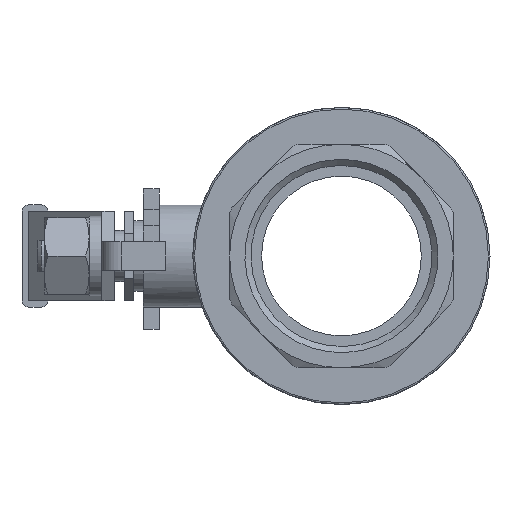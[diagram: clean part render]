
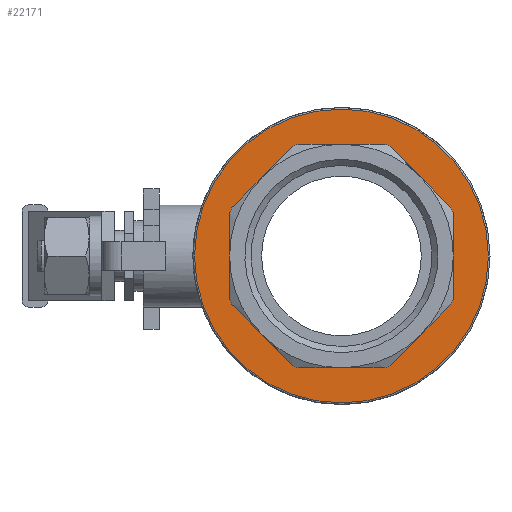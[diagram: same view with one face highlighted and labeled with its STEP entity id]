
A CAD part, left-side view. The second image highlights one B-rep face of the part: STEP entity #22171.
In plain terms, the highlighted planar face has unit normal (-1, 0, 0).
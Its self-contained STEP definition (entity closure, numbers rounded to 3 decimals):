
#169=FACE_BOUND('',#3289,.T.);
#831=PLANE('',#23349);
#2126=FACE_OUTER_BOUND('',#3288,.T.);
#3288=EDGE_LOOP('',(#18053));
#3289=EDGE_LOOP('',(#18054,#18055,#18056,#18057,#18058,#18059,#18060,#18061,
#18062,#18063,#18064,#18065,#18066,#18067,#18068,#18069));
#5530=LINE('',#33624,#8071);
#5531=LINE('',#33628,#8072);
#5532=LINE('',#33632,#8073);
#5533=LINE('',#33636,#8074);
#5534=LINE('',#33640,#8075);
#5535=LINE('',#33644,#8076);
#5536=LINE('',#33648,#8077);
#5537=LINE('',#33651,#8078);
#8071=VECTOR('',#27121,10.);
#8072=VECTOR('',#27124,10.);
#8073=VECTOR('',#27127,10.);
#8074=VECTOR('',#27130,10.);
#8075=VECTOR('',#27133,10.);
#8076=VECTOR('',#27136,10.);
#8077=VECTOR('',#27139,10.);
#8078=VECTOR('',#27142,10.);
#8897=CIRCLE('',#23347,46.);
#8899=CIRCLE('',#23350,37.5);
#8900=CIRCLE('',#23351,37.5);
#8901=CIRCLE('',#23352,37.5);
#8902=CIRCLE('',#23353,37.5);
#8903=CIRCLE('',#23354,37.5);
#8904=CIRCLE('',#23355,37.5);
#8905=CIRCLE('',#23356,37.5);
#8906=CIRCLE('',#23357,37.5);
#10366=VERTEX_POINT('',#33615);
#10367=VERTEX_POINT('',#33620);
#10368=VERTEX_POINT('',#33621);
#10369=VERTEX_POINT('',#33623);
#10370=VERTEX_POINT('',#33625);
#10371=VERTEX_POINT('',#33627);
#10372=VERTEX_POINT('',#33629);
#10373=VERTEX_POINT('',#33631);
#10374=VERTEX_POINT('',#33633);
#10375=VERTEX_POINT('',#33635);
#10376=VERTEX_POINT('',#33637);
#10377=VERTEX_POINT('',#33639);
#10378=VERTEX_POINT('',#33641);
#10379=VERTEX_POINT('',#33643);
#10380=VERTEX_POINT('',#33645);
#10381=VERTEX_POINT('',#33647);
#10382=VERTEX_POINT('',#33649);
#13044=EDGE_CURVE('',#10366,#10366,#8897,.T.);
#13046=EDGE_CURVE('',#10367,#10368,#8899,.T.);
#13047=EDGE_CURVE('',#10368,#10369,#5530,.T.);
#13048=EDGE_CURVE('',#10369,#10370,#8900,.T.);
#13049=EDGE_CURVE('',#10370,#10371,#5531,.T.);
#13050=EDGE_CURVE('',#10371,#10372,#8901,.T.);
#13051=EDGE_CURVE('',#10372,#10373,#5532,.T.);
#13052=EDGE_CURVE('',#10373,#10374,#8902,.T.);
#13053=EDGE_CURVE('',#10374,#10375,#5533,.T.);
#13054=EDGE_CURVE('',#10375,#10376,#8903,.T.);
#13055=EDGE_CURVE('',#10376,#10377,#5534,.T.);
#13056=EDGE_CURVE('',#10377,#10378,#8904,.T.);
#13057=EDGE_CURVE('',#10378,#10379,#5535,.T.);
#13058=EDGE_CURVE('',#10379,#10380,#8905,.T.);
#13059=EDGE_CURVE('',#10380,#10381,#5536,.T.);
#13060=EDGE_CURVE('',#10381,#10382,#8906,.T.);
#13061=EDGE_CURVE('',#10382,#10367,#5537,.T.);
#18053=ORIENTED_EDGE('',*,*,#13044,.F.);
#18054=ORIENTED_EDGE('',*,*,#13046,.T.);
#18055=ORIENTED_EDGE('',*,*,#13047,.T.);
#18056=ORIENTED_EDGE('',*,*,#13048,.T.);
#18057=ORIENTED_EDGE('',*,*,#13049,.T.);
#18058=ORIENTED_EDGE('',*,*,#13050,.T.);
#18059=ORIENTED_EDGE('',*,*,#13051,.T.);
#18060=ORIENTED_EDGE('',*,*,#13052,.T.);
#18061=ORIENTED_EDGE('',*,*,#13053,.T.);
#18062=ORIENTED_EDGE('',*,*,#13054,.T.);
#18063=ORIENTED_EDGE('',*,*,#13055,.T.);
#18064=ORIENTED_EDGE('',*,*,#13056,.T.);
#18065=ORIENTED_EDGE('',*,*,#13057,.T.);
#18066=ORIENTED_EDGE('',*,*,#13058,.T.);
#18067=ORIENTED_EDGE('',*,*,#13059,.T.);
#18068=ORIENTED_EDGE('',*,*,#13060,.T.);
#18069=ORIENTED_EDGE('',*,*,#13061,.T.);
#22171=ADVANCED_FACE('',(#2126,#169),#831,.T.);
#23347=AXIS2_PLACEMENT_3D('',#33617,#27113,#27114);
#23349=AXIS2_PLACEMENT_3D('',#33619,#27117,#27118);
#23350=AXIS2_PLACEMENT_3D('',#33622,#27119,#27120);
#23351=AXIS2_PLACEMENT_3D('',#33626,#27122,#27123);
#23352=AXIS2_PLACEMENT_3D('',#33630,#27125,#27126);
#23353=AXIS2_PLACEMENT_3D('',#33634,#27128,#27129);
#23354=AXIS2_PLACEMENT_3D('',#33638,#27131,#27132);
#23355=AXIS2_PLACEMENT_3D('',#33642,#27134,#27135);
#23356=AXIS2_PLACEMENT_3D('',#33646,#27137,#27138);
#23357=AXIS2_PLACEMENT_3D('',#33650,#27140,#27141);
#27113=DIRECTION('center_axis',(1.,0.,0.));
#27114=DIRECTION('ref_axis',(0.,-1.,0.));
#27117=DIRECTION('center_axis',(-1.,0.,0.));
#27118=DIRECTION('ref_axis',(0.,0.,1.));
#27119=DIRECTION('center_axis',(1.,0.,0.));
#27120=DIRECTION('ref_axis',(0.,1.,0.));
#27121=DIRECTION('',(0.,-0.707,0.707));
#27122=DIRECTION('center_axis',(1.,0.,0.));
#27123=DIRECTION('ref_axis',(0.,1.,0.));
#27124=DIRECTION('',(0.,-1.,0.));
#27125=DIRECTION('center_axis',(1.,0.,0.));
#27126=DIRECTION('ref_axis',(0.,1.,0.));
#27127=DIRECTION('',(0.,-0.707,-0.707));
#27128=DIRECTION('center_axis',(1.,0.,0.));
#27129=DIRECTION('ref_axis',(0.,1.,0.));
#27130=DIRECTION('',(0.,0.,-1.));
#27131=DIRECTION('center_axis',(1.,0.,0.));
#27132=DIRECTION('ref_axis',(0.,1.,0.));
#27133=DIRECTION('',(0.,0.707,-0.707));
#27134=DIRECTION('center_axis',(1.,0.,0.));
#27135=DIRECTION('ref_axis',(0.,1.,0.));
#27136=DIRECTION('',(0.,1.,0.));
#27137=DIRECTION('center_axis',(1.,0.,0.));
#27138=DIRECTION('ref_axis',(0.,1.,0.));
#27139=DIRECTION('',(0.,0.707,0.707));
#27140=DIRECTION('center_axis',(1.,0.,0.));
#27141=DIRECTION('ref_axis',(0.,1.,0.));
#27142=DIRECTION('',(0.,0.,1.));
#33615=CARTESIAN_POINT('',(-90.046,-51.263,46.));
#33617=CARTESIAN_POINT('Origin',(-90.046,-51.263,0.));
#33619=CARTESIAN_POINT('Origin',(-90.046,-9.263,0.));
#33620=CARTESIAN_POINT('',(-90.046,-16.263,13.463));
#33621=CARTESIAN_POINT('',(-90.046,-16.995,15.229));
#33622=CARTESIAN_POINT('Origin',(-90.046,-51.263,0.));
#33623=CARTESIAN_POINT('',(-90.046,-36.034,34.268));
#33624=CARTESIAN_POINT('',(-90.046,-16.995,15.229));
#33625=CARTESIAN_POINT('',(-90.046,-37.8,35.));
#33626=CARTESIAN_POINT('Origin',(-90.046,-51.263,0.));
#33627=CARTESIAN_POINT('',(-90.046,-64.726,35.));
#33628=CARTESIAN_POINT('',(-90.046,-37.8,35.));
#33629=CARTESIAN_POINT('',(-90.046,-66.492,34.268));
#33630=CARTESIAN_POINT('Origin',(-90.046,-51.263,0.));
#33631=CARTESIAN_POINT('',(-90.046,-85.532,15.229));
#33632=CARTESIAN_POINT('',(-90.046,-66.492,34.268));
#33633=CARTESIAN_POINT('',(-90.046,-86.263,13.463));
#33634=CARTESIAN_POINT('Origin',(-90.046,-51.263,0.));
#33635=CARTESIAN_POINT('',(-90.046,-86.263,-13.463));
#33636=CARTESIAN_POINT('',(-90.046,-86.263,13.463));
#33637=CARTESIAN_POINT('',(-90.046,-85.532,-15.229));
#33638=CARTESIAN_POINT('Origin',(-90.046,-51.263,0.));
#33639=CARTESIAN_POINT('',(-90.046,-66.492,-34.268));
#33640=CARTESIAN_POINT('',(-90.046,-85.532,-15.229));
#33641=CARTESIAN_POINT('',(-90.046,-64.726,-35.));
#33642=CARTESIAN_POINT('Origin',(-90.046,-51.263,0.));
#33643=CARTESIAN_POINT('',(-90.046,-37.8,-35.));
#33644=CARTESIAN_POINT('',(-90.046,-64.726,-35.));
#33645=CARTESIAN_POINT('',(-90.046,-36.034,-34.268));
#33646=CARTESIAN_POINT('Origin',(-90.046,-51.263,0.));
#33647=CARTESIAN_POINT('',(-90.046,-16.995,-15.229));
#33648=CARTESIAN_POINT('',(-90.046,-36.034,-34.268));
#33649=CARTESIAN_POINT('',(-90.046,-16.263,-13.463));
#33650=CARTESIAN_POINT('Origin',(-90.046,-51.263,0.));
#33651=CARTESIAN_POINT('',(-90.046,-16.263,-13.463));
